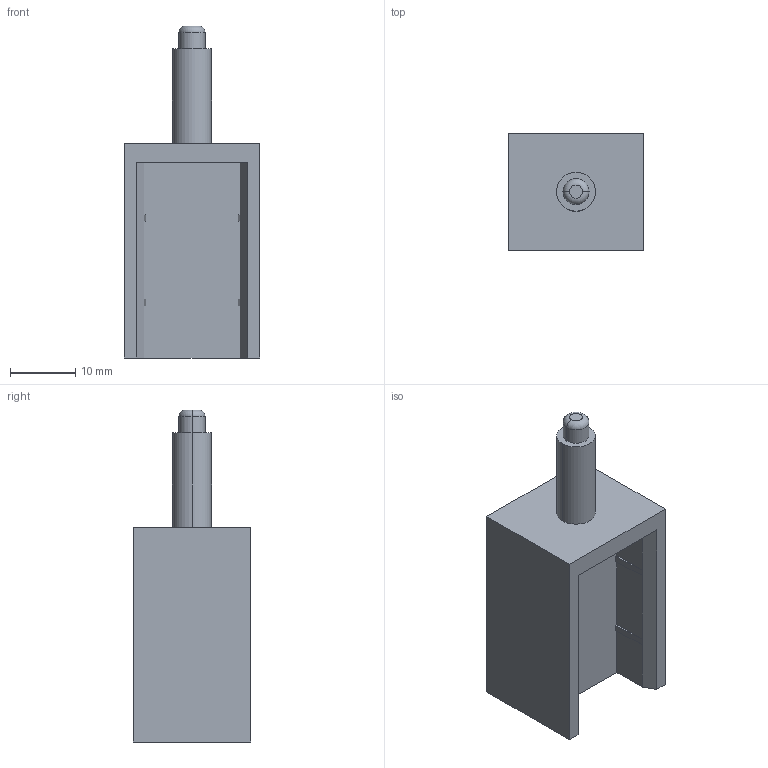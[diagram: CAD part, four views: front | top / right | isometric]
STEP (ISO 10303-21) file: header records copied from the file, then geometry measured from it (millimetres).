
FILE_DESCRIPTION(('Open CASCADE Model'),'2;1');
FILE_NAME('depth-calibration-reference-plate.step','2026-11-14T14:29:31' ,('Author'),('Open CASCADE'),'Open CASCADE STEP processor 8.0', 'Open CASCADE 8.0','Unknown');
FILE_SCHEMA(('AP242_MANAGED_MODEL_BASED_3D_ENGINEERING_MIM_LF {1 0 10303 442 1 1 4 }' ));
Length unit declared in the file: millimetre
Products named in the file (1): Depth Calibration Reference Plate
Bounding box: 20.8 x 18 x 51 mm (x, y, z)
Volume: 6014.8 mm3; surface area: 4430.5 mm2
Topology: 1 solids, 1 shells, 58 faces, 144 edges, 90 vertices
Faces by surface type: plane 52, cylinder 4, torus 2
Entity records: 3558 total; most frequent: CARTESIAN_POINT 581, DIRECTION 562, LINE 412, VECTOR 412, ORIENTED_EDGE 288, PCURVE 288, DEFINITIONAL_REPRESENTATION 288, EDGE_CURVE 144
